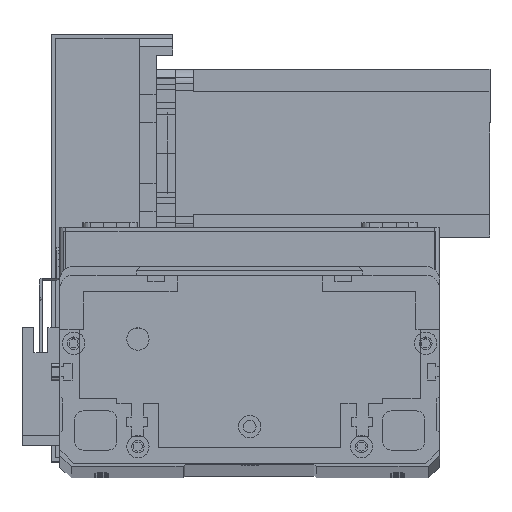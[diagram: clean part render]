
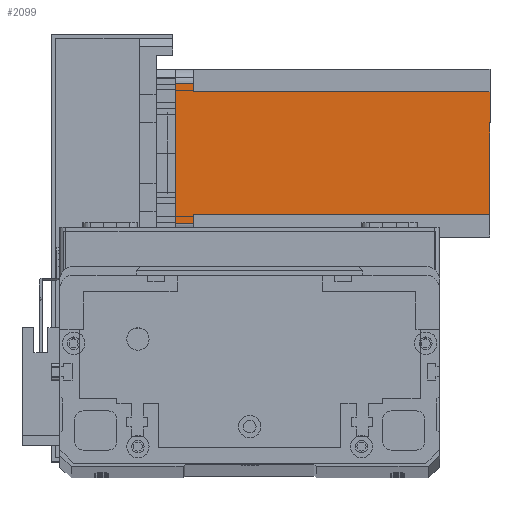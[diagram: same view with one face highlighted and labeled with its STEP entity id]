
A CAD part, top view. The second image highlights one B-rep face of the part: STEP entity #2099.
In plain terms, the highlighted planar face has unit normal (0, 0, 1) as drawn and (0, -1, 0) by its records, which use the part's own axes.
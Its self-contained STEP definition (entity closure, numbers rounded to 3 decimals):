
#46 = ORIENTED_EDGE ( 'NONE', *, *, #1005, .T. ) ;
#630 = ORIENTED_EDGE ( 'NONE', *, *, #27012, .F. ) ;
#879 = EDGE_LOOP ( 'NONE', ( #4050, #25211, #12782, #19253, #26756, #3400, #46, #630 ) ) ;
#1005 = EDGE_CURVE ( 'NONE', #10922, #28542, #19799, .T. ) ;
#1351 = AXIS2_PLACEMENT_3D ( 'NONE', #13011, #7623, #6905 ) ;
#1388 = VECTOR ( 'NONE', #30171, 1000. ) ;
#2099 = ADVANCED_FACE ( 'NONE', ( #20091 ), #24695, .T. ) ;
#2154 = DIRECTION ( 'NONE',  ( 1., 0., 0. ) ) ;
#2479 = CARTESIAN_POINT ( 'NONE',  ( 52., 0., -6.5 ) ) ;
#3028 = LINE ( 'NONE', #9384, #27372 ) ;
#3400 = ORIENTED_EDGE ( 'NONE', *, *, #22874, .F. ) ;
#3774 = CARTESIAN_POINT ( 'NONE',  ( 8., 0., -112.5 ) ) ;
#4050 = ORIENTED_EDGE ( 'NONE', *, *, #8267, .T. ) ;
#4853 = LINE ( 'NONE', #11643, #16705 ) ;
#4883 = LINE ( 'NONE', #8681, #23754 ) ;
#5285 = VERTEX_POINT ( 'NONE', #10552 ) ;
#5558 = VECTOR ( 'NONE', #26454, 1000. ) ;
#6905 = DIRECTION ( 'NONE',  ( 0., 0., -1. ) ) ;
#7623 = DIRECTION ( 'NONE',  ( 0., -1., 0. ) ) ;
#8267 = EDGE_CURVE ( 'NONE', #28821, #28680, #27341, .T. ) ;
#8681 = CARTESIAN_POINT ( 'NONE',  ( 8., 0., -112.5 ) ) ;
#9323 = VECTOR ( 'NONE', #2154, 1000. ) ;
#9384 = CARTESIAN_POINT ( 'NONE',  ( 8., 0., -6.5 ) ) ;
#9484 = DIRECTION ( 'NONE',  ( -1., 0., 0. ) ) ;
#10552 = CARTESIAN_POINT ( 'NONE',  ( 55., 0., 0. ) ) ;
#10685 = VECTOR ( 'NONE', #29851, 1000. ) ;
#10922 = VERTEX_POINT ( 'NONE', #3774 ) ;
#11079 = CARTESIAN_POINT ( 'NONE',  ( 55., 0., -6.5 ) ) ;
#11565 = DIRECTION ( 'NONE',  ( 0., 0., 1. ) ) ;
#11643 = CARTESIAN_POINT ( 'NONE',  ( 55., 0., -112.5 ) ) ;
#12782 = ORIENTED_EDGE ( 'NONE', *, *, #16198, .F. ) ;
#12790 = CARTESIAN_POINT ( 'NONE',  ( 52., 0., -112.5 ) ) ;
#13011 = CARTESIAN_POINT ( 'NONE',  ( 0., 0., -112.5 ) ) ;
#13481 = CARTESIAN_POINT ( 'NONE',  ( 5., 0., -112.5 ) ) ;
#13542 = VECTOR ( 'NONE', #25729, 1000. ) ;
#14543 = EDGE_CURVE ( 'NONE', #28680, #5285, #4853, .T. ) ;
#16198 = EDGE_CURVE ( 'NONE', #18726, #5285, #18151, .T. ) ;
#16295 = CARTESIAN_POINT ( 'NONE',  ( 52., 0., -6.5 ) ) ;
#16705 = VECTOR ( 'NONE', #11565, 1000. ) ;
#16915 = LINE ( 'NONE', #13481, #10685 ) ;
#18151 = LINE ( 'NONE', #26491, #5558 ) ;
#18726 = VERTEX_POINT ( 'NONE', #28583 ) ;
#19253 = ORIENTED_EDGE ( 'NONE', *, *, #25817, .T. ) ;
#19799 = LINE ( 'NONE', #23997, #13542 ) ;
#19892 = CARTESIAN_POINT ( 'NONE',  ( 8., 0., -6.5 ) ) ;
#20091 = FACE_OUTER_BOUND ( 'NONE', #879, .T. ) ;
#20810 = CARTESIAN_POINT ( 'NONE',  ( 52., 0., -112.5 ) ) ;
#21919 = VERTEX_POINT ( 'NONE', #30306 ) ;
#22874 = EDGE_CURVE ( 'NONE', #10922, #26922, #4883, .T. ) ;
#23081 = EDGE_CURVE ( 'NONE', #26922, #21919, #3028, .T. ) ;
#23754 = VECTOR ( 'NONE', #27483, 1000. ) ;
#23997 = CARTESIAN_POINT ( 'NONE',  ( 0., 0., -112.5 ) ) ;
#24695 = PLANE ( 'NONE',  #1351 ) ;
#25211 = ORIENTED_EDGE ( 'NONE', *, *, #14543, .T. ) ;
#25729 = DIRECTION ( 'NONE',  ( 1., 0., 0. ) ) ;
#25817 = EDGE_CURVE ( 'NONE', #18726, #21919, #16915, .T. ) ;
#26441 = LINE ( 'NONE', #20810, #1388 ) ;
#26454 = DIRECTION ( 'NONE',  ( 1., 0., 0. ) ) ;
#26491 = CARTESIAN_POINT ( 'NONE',  ( 0., 0., 0. ) ) ;
#26756 = ORIENTED_EDGE ( 'NONE', *, *, #23081, .F. ) ;
#26922 = VERTEX_POINT ( 'NONE', #19892 ) ;
#27012 = EDGE_CURVE ( 'NONE', #28821, #28542, #26441, .T. ) ;
#27341 = LINE ( 'NONE', #2479, #9323 ) ;
#27372 = VECTOR ( 'NONE', #9484, 1000. ) ;
#27483 = DIRECTION ( 'NONE',  ( 0., 0., 1. ) ) ;
#28542 = VERTEX_POINT ( 'NONE', #12790 ) ;
#28583 = CARTESIAN_POINT ( 'NONE',  ( 5., 0., 0. ) ) ;
#28680 = VERTEX_POINT ( 'NONE', #11079 ) ;
#28821 = VERTEX_POINT ( 'NONE', #16295 ) ;
#29851 = DIRECTION ( 'NONE',  ( 0., 0., -1. ) ) ;
#30171 = DIRECTION ( 'NONE',  ( 0., 0., -1. ) ) ;
#30306 = CARTESIAN_POINT ( 'NONE',  ( 5., 0., -6.5 ) ) ;
